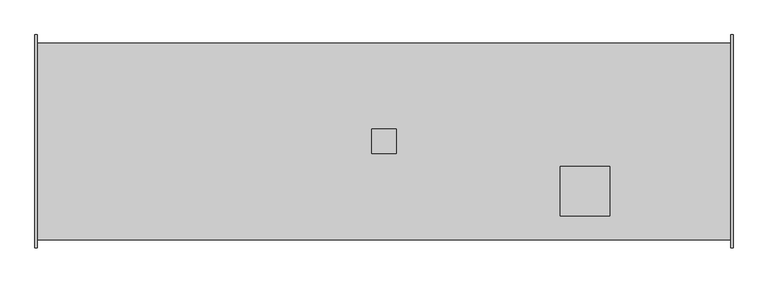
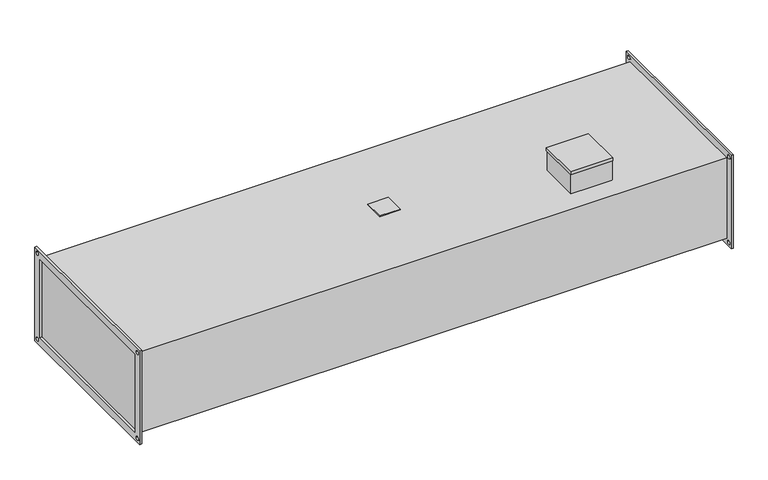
"""IFC4 building model written with IfcOpenShell, lengths in millimetres: damper geometry, KORF_Секция бактерицидной обработки воздуха_SBOW : SBOW 40-20/143."""

from ifc_helpers import new_model, si_unit, point, frame, frame_2d, origin, place, context, project, spatial, polyline, circle_curve, trimmed, segment, composite_curve, outline, extrude, faceted_brep, source, transform, mapped, element, save


def damper_f009ec1c(model_context):
    return source(origin(), model_context, "Body", "SolidModel", [
        extrude(outline(polyline([(695.0, -25.0), (695.0, 25.0), (745.0, 25.0), (745.0, -25.0), (695.0, -25.0)])), frame((0.0, 0.0, 103.0), z_axis=(0.0, 0.0, 1.0), x_axis=(1.0, 0.0, 0.0)), (0.0, 0.0, 1.0), 2.0),
        faceted_brep([(1186.0, -52.0, 160.0), (1084.0, -52.0, 160.0), (1084.0, -154.0, 160.0), (1186.0, -154.0, 160.0), (1186.0, -52.0, 153.0), (1186.0, -154.0, 153.0), (1084.0, -154.0, 153.0), (1084.0, -52.0, 153.0), (1185.0, -53.0, 153.0), (1085.0, -53.0, 153.0), (1085.0, -153.0, 153.0), (1185.0, -153.0, 153.0), (1185.0, -53.0, 103.0), (1185.0, -153.0, 103.0), (1085.0, -153.0, 103.0), (1085.0, -53.0, 103.0)], [[[0, 1, 2, 3]], [[4, 5, 6, 7], [8, 9, 10, 11]], [[1, 0, 4, 7]], [[2, 1, 7, 6]], [[3, 2, 6, 5]], [[0, 3, 5, 4]], [[12, 13, 14, 15]], [[12, 15, 9, 8]], [[15, 14, 10, 9]], [[14, 13, 11, 10]], [[13, 12, 8, 11]]]),
        extrude(outline(polyline([(-220.0, 120.0), (220.0, 120.0), (220.0, -120.0), (-220.0, -120.0), (-220.0, 120.0)]), holes=[polyline([(-200.0, 100.0), (-200.0, -100.0), (200.0, -100.0), (200.0, 100.0), (-200.0, 100.0)]), composite_curve([segment(trimmed(circle_curve(frame_2d((210.0, 110.0)), 4.5), [point((205.5, 110.0))], [point((214.5, 110.0))], True, "CARTESIAN"), True, "CONTINUOUS"), segment(trimmed(circle_curve(frame_2d((210.0, 110.0)), 4.5), [point((214.5, 110.0))], [point((205.5, 110.0))], True, "CARTESIAN"), True, "CONTINUOUS")], self_intersect=False), composite_curve([segment(trimmed(circle_curve(frame_2d((-210.0, 110.0)), 4.5), [point((-214.5, 110.0))], [point((-205.5, 110.0))], True, "CARTESIAN"), True, "CONTINUOUS"), segment(trimmed(circle_curve(frame_2d((-210.0, 110.0)), 4.5), [point((-205.5, 110.0))], [point((-214.5, 110.0))], True, "CARTESIAN"), True, "CONTINUOUS")], self_intersect=False), composite_curve([segment(trimmed(circle_curve(frame_2d((-210.0, -110.0)), 4.5), [point((-214.5, -110.0))], [point((-205.5, -110.0))], True, "CARTESIAN"), True, "CONTINUOUS"), segment(trimmed(circle_curve(frame_2d((-210.0, -110.0)), 4.5), [point((-205.5, -110.0))], [point((-214.5, -110.0))], True, "CARTESIAN"), True, "CONTINUOUS")], self_intersect=False), composite_curve([segment(trimmed(circle_curve(frame_2d((210.0, -110.0)), 4.5), [point((205.5, -110.0))], [point((214.5, -110.0))], True, "CARTESIAN"), True, "CONTINUOUS"), segment(trimmed(circle_curve(frame_2d((210.0, -110.0)), 4.5), [point((214.5, -110.0))], [point((205.5, -110.0))], True, "CARTESIAN"), True, "CONTINUOUS")], self_intersect=False)]), frame((1435.0, 0.0, 0.0), z_axis=(1.0, 0.0, 0.0), x_axis=(0.0, 1.0, 0.0)), (0.0, 0.0, 1.0), 5.0),
        extrude(outline(polyline([(-220.0, 120.0), (220.0, 120.0), (220.0, -120.0), (-220.0, -120.0), (-220.0, 120.0)]), holes=[polyline([(-200.0, 100.0), (-200.0, -100.0), (200.0, -100.0), (200.0, 100.0), (-200.0, 100.0)]), composite_curve([segment(trimmed(circle_curve(frame_2d((210.0, 110.0)), 4.5), [point((205.5, 110.0))], [point((214.5, 110.0))], True, "CARTESIAN"), True, "CONTINUOUS"), segment(trimmed(circle_curve(frame_2d((210.0, 110.0)), 4.5), [point((214.5, 110.0))], [point((205.5, 110.0))], True, "CARTESIAN"), True, "CONTINUOUS")], self_intersect=False), composite_curve([segment(trimmed(circle_curve(frame_2d((-210.0, 110.0)), 4.5), [point((-214.5, 110.0))], [point((-205.5, 110.0))], True, "CARTESIAN"), True, "CONTINUOUS"), segment(trimmed(circle_curve(frame_2d((-210.0, 110.0)), 4.5), [point((-205.5, 110.0))], [point((-214.5, 110.0))], True, "CARTESIAN"), True, "CONTINUOUS")], self_intersect=False), composite_curve([segment(trimmed(circle_curve(frame_2d((-210.0, -110.0)), 4.5), [point((-214.5, -110.0))], [point((-205.5, -110.0))], True, "CARTESIAN"), True, "CONTINUOUS"), segment(trimmed(circle_curve(frame_2d((-210.0, -110.0)), 4.5), [point((-205.5, -110.0))], [point((-214.5, -110.0))], True, "CARTESIAN"), True, "CONTINUOUS")], self_intersect=False), composite_curve([segment(trimmed(circle_curve(frame_2d((210.0, -110.0)), 4.5), [point((205.5, -110.0))], [point((214.5, -110.0))], True, "CARTESIAN"), True, "CONTINUOUS"), segment(trimmed(circle_curve(frame_2d((210.0, -110.0)), 4.5), [point((214.5, -110.0))], [point((205.5, -110.0))], True, "CARTESIAN"), True, "CONTINUOUS")], self_intersect=False)]), frame((0.0, 0.0, 0.0), z_axis=(1.0, 0.0, 0.0), x_axis=(0.0, 1.0, 0.0)), (0.0, 0.0, 1.0), 5.0),
        extrude(outline(polyline([(1435.0, 203.0), (1435.0, -203.0), (5.0, -203.0), (5.0, 203.0), (1435.0, 203.0)])), frame((0.0, 0.0, -103.0), z_axis=(0.0, 0.0, 1.0), x_axis=(1.0, 0.0, 0.0)), (0.0, 0.0, 1.0), 206.0),
    ])


if __name__ == "__main__":
    model = new_model("IFC4")
    model_context = context("Model", 3, world=origin())
    ifc_project = project(units=[si_unit("LENGTHUNIT", "METRE", prefix="MILLI")], contexts=[model_context])
    site = spatial("IfcSite", under=ifc_project)
    building = spatial("IfcBuilding", under=site)
    placement = place(None, origin())
    damper_shape = damper_f009ec1c(model_context)
    element("IfcDamper", 1, ObjectType="KORF_Секция бактерицидной обработки воздуха_SBOW : SBOW 40-20/143", at=placement, inside=building, context=model_context, shape_type="MappedRepresentation", body=[
        mapped(damper_shape, transform((0.0, 0.0, 0.0), x_axis=(1.0, 0.0, 0.0), y_axis=(0.0, 1.0, 0.0), z_axis=(0.0, 0.0, 1.0))),
    ])
    save(model, "model.ifc")
